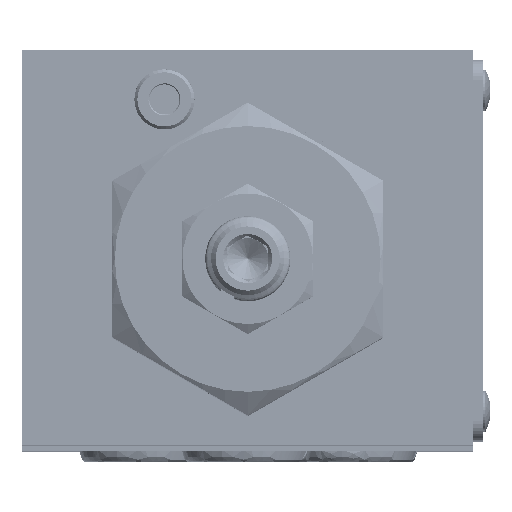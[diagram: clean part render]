
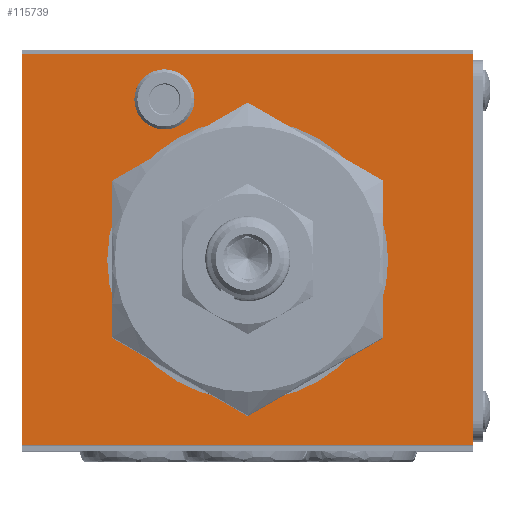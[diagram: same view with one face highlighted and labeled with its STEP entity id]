
A CAD part, top view. The second image highlights one B-rep face of the part: STEP entity #115739.
In plain terms, the highlighted planar face has unit normal (0, 0, 1).
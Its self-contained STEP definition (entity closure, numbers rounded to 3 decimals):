
#3488 = ORIENTED_EDGE ( 'NONE', *, *, #86935, .F. ) ;
#4883 = CARTESIAN_POINT ( 'NONE',  ( -8.3, 15., 46.5 ) ) ;
#7211 = VERTEX_POINT ( 'NONE', #120380 ) ;
#7980 = CIRCLE ( 'NONE', #119365, 3. ) ;
#8569 = CARTESIAN_POINT ( 'NONE',  ( 14., -1., 46.5 ) ) ;
#11875 = VECTOR ( 'NONE', #105782, 1000. ) ;
#12290 = VERTEX_POINT ( 'NONE', #33588 ) ;
#13895 = DIRECTION ( 'NONE',  ( 0., 0., 1. ) ) ;
#16446 = VERTEX_POINT ( 'NONE', #112213 ) ;
#20266 = ORIENTED_EDGE ( 'NONE', *, *, #94943, .T. ) ;
#22452 = CARTESIAN_POINT ( 'NONE',  ( 22.5, -19.5, 46.5 ) ) ;
#25243 = EDGE_LOOP ( 'NONE', ( #116121, #43028, #117487, #20266 ) ) ;
#26624 = VECTOR ( 'NONE', #67796, 1000. ) ;
#27873 = CARTESIAN_POINT ( 'NONE',  ( 0., -1., 46.5 ) ) ;
#28900 = DIRECTION ( 'NONE',  ( 1., 0., 0. ) ) ;
#30057 = FACE_OUTER_BOUND ( 'NONE', #25243, .T. ) ;
#30453 = CIRCLE ( 'NONE', #74526, 14. ) ;
#31132 = ORIENTED_EDGE ( 'NONE', *, *, #109065, .F. ) ;
#31733 = EDGE_CURVE ( 'NONE', #7211, #39556, #37788, .T. ) ;
#32948 = CIRCLE ( 'NONE', #97517, 14. ) ;
#33588 = CARTESIAN_POINT ( 'NONE',  ( -22.5, 19.5, 46.5 ) ) ;
#33654 = EDGE_CURVE ( 'NONE', #12290, #37661, #59625, .T. ) ;
#34170 = DIRECTION ( 'NONE',  ( 0., 0., 1. ) ) ;
#35304 = DIRECTION ( 'NONE',  ( 0., 0., 1. ) ) ;
#35708 = EDGE_CURVE ( 'NONE', #7211, #37661, #118753, .T. ) ;
#35800 = LINE ( 'NONE', #106677, #26624 ) ;
#35883 = AXIS2_PLACEMENT_3D ( 'NONE', #70997, #13895, #81257 ) ;
#37430 = CARTESIAN_POINT ( 'NONE',  ( 22.5, 20., 46.5 ) ) ;
#37661 = VERTEX_POINT ( 'NONE', #97088 ) ;
#37788 = LINE ( 'NONE', #22452, #66819 ) ;
#38569 = CARTESIAN_POINT ( 'NONE',  ( -22.5, 19.5, 46.5 ) ) ;
#39429 = DIRECTION ( 'NONE',  ( 1., 0., 0. ) ) ;
#39556 = VERTEX_POINT ( 'NONE', #89732 ) ;
#43028 = ORIENTED_EDGE ( 'NONE', *, *, #35708, .T. ) ;
#45122 = DIRECTION ( 'NONE',  ( 1., 0., 0. ) ) ;
#49880 = EDGE_CURVE ( 'NONE', #16446, #113217, #70003, .T. ) ;
#56196 = EDGE_CURVE ( 'NONE', #113217, #16446, #7980, .T. ) ;
#59520 = EDGE_LOOP ( 'NONE', ( #31132, #3488 ) ) ;
#59625 = LINE ( 'NONE', #38569, #111597 ) ;
#64037 = DIRECTION ( 'NONE',  ( 1., 0., 0. ) ) ;
#64750 = DIRECTION ( 'NONE',  ( 0., 0., 1. ) ) ;
#66819 = VECTOR ( 'NONE', #119769, 1000. ) ;
#67671 = EDGE_LOOP ( 'NONE', ( #71770, #90400 ) ) ;
#67796 = DIRECTION ( 'NONE',  ( 0., -1., 0. ) ) ;
#67897 = AXIS2_PLACEMENT_3D ( 'NONE', #4883, #34170, #64037 ) ;
#70003 = CIRCLE ( 'NONE', #67897, 3. ) ;
#70997 = CARTESIAN_POINT ( 'NONE',  ( -22.5, -20., 46.5 ) ) ;
#71418 = PLANE ( 'NONE',  #35883 ) ;
#71633 = CARTESIAN_POINT ( 'NONE',  ( -14., -1., 46.5 ) ) ;
#71770 = ORIENTED_EDGE ( 'NONE', *, *, #56196, .F. ) ;
#74526 = AXIS2_PLACEMENT_3D ( 'NONE', #27873, #105163, #106020 ) ;
#78885 = CARTESIAN_POINT ( 'NONE',  ( -5.3, 15., 46.5 ) ) ;
#81257 = DIRECTION ( 'NONE',  ( 1., 0., 0. ) ) ;
#86935 = EDGE_CURVE ( 'NONE', #101955, #100294, #32948, .T. ) ;
#87391 = CARTESIAN_POINT ( 'NONE',  ( 0., -1., 46.5 ) ) ;
#88137 = FACE_BOUND ( 'NONE', #67671, .T. ) ;
#89732 = CARTESIAN_POINT ( 'NONE',  ( -22.5, -19.5, 46.5 ) ) ;
#90400 = ORIENTED_EDGE ( 'NONE', *, *, #49880, .F. ) ;
#93815 = CARTESIAN_POINT ( 'NONE',  ( -8.3, 15., 46.5 ) ) ;
#94943 = EDGE_CURVE ( 'NONE', #12290, #39556, #35800, .T. ) ;
#97088 = CARTESIAN_POINT ( 'NONE',  ( 22.5, 19.5, 46.5 ) ) ;
#97282 = FACE_BOUND ( 'NONE', #59520, .T. ) ;
#97517 = AXIS2_PLACEMENT_3D ( 'NONE', #87391, #64750, #28900 ) ;
#100294 = VERTEX_POINT ( 'NONE', #8569 ) ;
#101955 = VERTEX_POINT ( 'NONE', #71633 ) ;
#105163 = DIRECTION ( 'NONE',  ( 0., 0., 1. ) ) ;
#105782 = DIRECTION ( 'NONE',  ( 0., 1., 0. ) ) ;
#106020 = DIRECTION ( 'NONE',  ( 1., 0., 0. ) ) ;
#106677 = CARTESIAN_POINT ( 'NONE',  ( -22.5, 20., 46.5 ) ) ;
#109065 = EDGE_CURVE ( 'NONE', #100294, #101955, #30453, .T. ) ;
#111597 = VECTOR ( 'NONE', #39429, 1000. ) ;
#112213 = CARTESIAN_POINT ( 'NONE',  ( -11.3, 15., 46.5 ) ) ;
#113217 = VERTEX_POINT ( 'NONE', #78885 ) ;
#115739 = ADVANCED_FACE ( 'NONE', ( #88137, #97282, #30057 ), #71418, .T. ) ;
#116121 = ORIENTED_EDGE ( 'NONE', *, *, #31733, .F. ) ;
#117487 = ORIENTED_EDGE ( 'NONE', *, *, #33654, .F. ) ;
#118753 = LINE ( 'NONE', #37430, #11875 ) ;
#119365 = AXIS2_PLACEMENT_3D ( 'NONE', #93815, #35304, #45122 ) ;
#119769 = DIRECTION ( 'NONE',  ( -1., 0., 0. ) ) ;
#120380 = CARTESIAN_POINT ( 'NONE',  ( 22.5, -19.5, 46.5 ) ) ;
